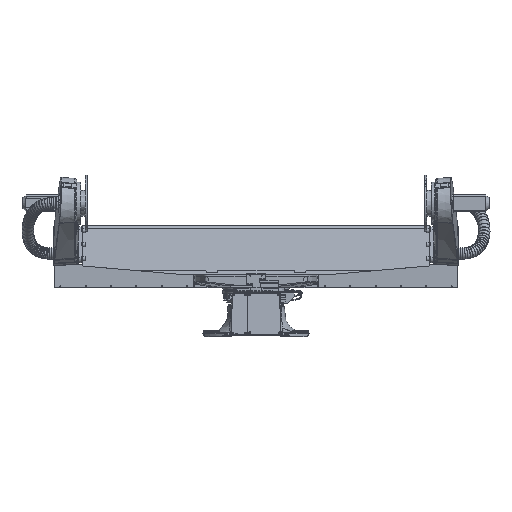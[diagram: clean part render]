
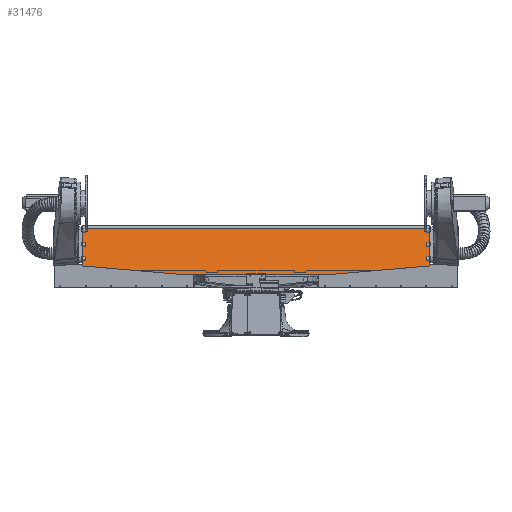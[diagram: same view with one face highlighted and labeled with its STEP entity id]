
A CAD part, left-side view. The second image highlights one B-rep face of the part: STEP entity #31476.
In plain terms, the highlighted planar face has unit normal (-0.964, 0, 0.267).
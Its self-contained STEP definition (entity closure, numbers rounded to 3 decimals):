
#31476=ADVANCED_FACE('',(#35814),#34018,.F.);
#34018=PLANE('',#85697);
#35814=FACE_OUTER_BOUND('',#40490,.T.);
#40490=EDGE_LOOP('',(#57482,#57483,#57484,#57485,#57486,#57487,#57488,#57489));
#44391=LINE('',#127599,#47144);
#44393=LINE('',#127602,#47146);
#44405=LINE('',#127635,#47158);
#44480=LINE('',#127886,#47233);
#44484=LINE('',#127909,#47237);
#44490=LINE('',#127990,#47243);
#44498=LINE('',#128085,#47251);
#44499=LINE('',#128088,#47252);
#47144=VECTOR('',#97740,1.);
#47146=VECTOR('',#97744,1.);
#47158=VECTOR('',#97762,1.);
#47233=VECTOR('',#97975,1.);
#47237=VECTOR('',#97999,1.);
#47243=VECTOR('',#98109,1.);
#47251=VECTOR('',#98231,1.);
#47252=VECTOR('',#98236,1.);
#57482=ORIENTED_EDGE('',*,*,#75099,.F.);
#57483=ORIENTED_EDGE('',*,*,#75100,.T.);
#57484=ORIENTED_EDGE('',*,*,#75031,.T.);
#57485=ORIENTED_EDGE('',*,*,#74892,.T.);
#57486=ORIENTED_EDGE('',*,*,#75019,.T.);
#57487=ORIENTED_EDGE('',*,*,#75061,.T.);
#57488=ORIENTED_EDGE('',*,*,#74878,.T.);
#57489=ORIENTED_EDGE('',*,*,#74876,.F.);
#67918=VERTEX_POINT('',#127586);
#67924=VERTEX_POINT('',#127598);
#67925=VERTEX_POINT('',#127603);
#67938=VERTEX_POINT('',#127634);
#67939=VERTEX_POINT('',#127636);
#68045=VERTEX_POINT('',#127885);
#68055=VERTEX_POINT('',#127910);
#68107=VERTEX_POINT('',#128084);
#74876=EDGE_CURVE('',#67924,#67918,#44391,.T.);
#74878=EDGE_CURVE('',#67925,#67918,#44393,.T.);
#74892=EDGE_CURVE('',#67939,#67938,#44405,.T.);
#75019=EDGE_CURVE('',#67938,#68045,#44480,.T.);
#75031=EDGE_CURVE('',#68055,#67939,#44484,.T.);
#75061=EDGE_CURVE('',#68045,#67925,#44490,.T.);
#75099=EDGE_CURVE('',#68107,#67924,#44498,.T.);
#75100=EDGE_CURVE('',#68107,#68055,#44499,.T.);
#85697=AXIS2_PLACEMENT_3D('',#128089,#98237,#98238);
#97740=DIRECTION('',(-0.267,0.,-0.964));
#97744=DIRECTION('',(0.024,-0.996,0.086));
#97762=DIRECTION('',(-0.267,0.,-0.964));
#97975=DIRECTION('',(-0.024,-0.996,-0.086));
#97999=DIRECTION('',(-0.267,0.,-0.964));
#98109=DIRECTION('',(0.,-1.,0.));
#98231=DIRECTION('',(-0.267,0.,-0.964));
#98236=DIRECTION('',(0.,1.,0.));
#98237=DIRECTION('',(0.964,0.,-0.267));
#98238=DIRECTION('',(-0.267,0.,-0.964));
#127586=CARTESIAN_POINT('',(-245.475,-1235.,504.474));
#127598=CARTESIAN_POINT('',(-238.951,-1235.,528.));
#127599=CARTESIAN_POINT('',(-166.014,-1235.,791.));
#127602=CARTESIAN_POINT('',(-261.749,-552.383,445.794));
#127603=CARTESIAN_POINT('',(-261.5,-562.807,446.69));
#127634=CARTESIAN_POINT('',(-245.475,1235.,504.474));
#127635=CARTESIAN_POINT('',(-166.014,1235.,791.));
#127636=CARTESIAN_POINT('',(-238.951,1235.,528.));
#127885=CARTESIAN_POINT('',(-261.5,562.807,446.69));
#127886=CARTESIAN_POINT('',(-245.189,1246.991,505.505));
#127909=CARTESIAN_POINT('',(-166.014,1235.,791.));
#127910=CARTESIAN_POINT('',(-172.111,1235.,769.017));
#127990=CARTESIAN_POINT('',(-261.5,0.,446.69));
#128084=CARTESIAN_POINT('',(-172.111,-1235.,769.017));
#128085=CARTESIAN_POINT('',(-166.014,-1235.,791.));
#128088=CARTESIAN_POINT('',(-172.111,1235.,769.017));
#128089=CARTESIAN_POINT('',(-166.014,-1235.,791.));
